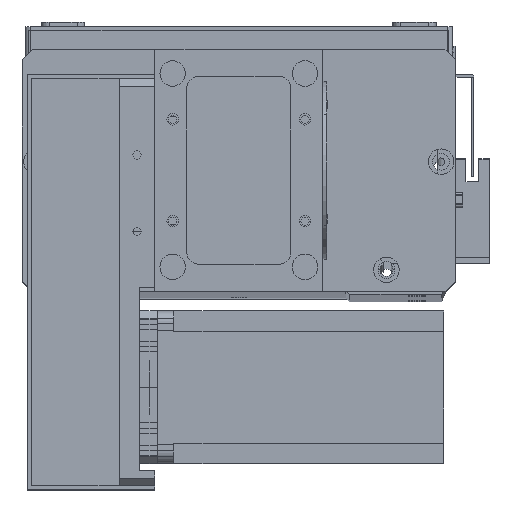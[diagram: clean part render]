
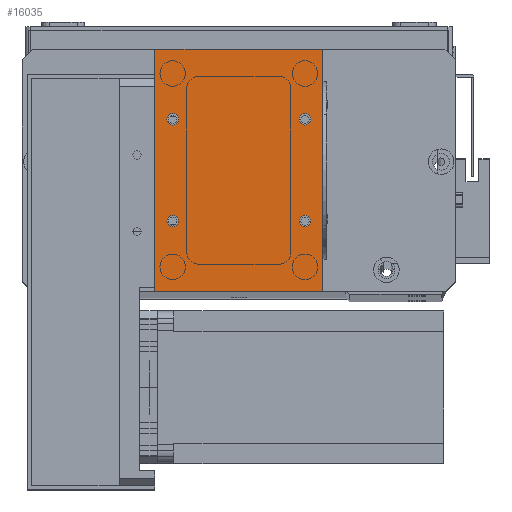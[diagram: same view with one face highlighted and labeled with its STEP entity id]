
A CAD part, top view. The second image highlights one B-rep face of the part: STEP entity #16035.
In plain terms, the highlighted planar face has unit normal (0, 0, 1).
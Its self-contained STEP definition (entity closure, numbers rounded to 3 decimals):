
#400 = CARTESIAN_POINT ( 'NONE',  ( 59., 67.5, 2. ) ) ;
#459 = DIRECTION ( 'NONE',  ( 0., 0., 1. ) ) ;
#932 = FACE_BOUND ( 'NONE', #26355, .T. ) ;
#1031 = CARTESIAN_POINT ( 'NONE',  ( 7., 67.5, 2. ) ) ;
#1072 = VERTEX_POINT ( 'NONE', #25396 ) ;
#1284 = VERTEX_POINT ( 'NONE', #9262 ) ;
#1504 = VECTOR ( 'NONE', #21744, 1000. ) ;
#1516 = EDGE_CURVE ( 'NONE', #30271, #21152, #19357, .T. ) ;
#2965 = DIRECTION ( 'NONE',  ( 1., 0., 0. ) ) ;
#3580 = DIRECTION ( 'NONE',  ( 1., 0., 0. ) ) ;
#3852 = CARTESIAN_POINT ( 'NONE',  ( 59., 27.5, 2. ) ) ;
#4043 = ORIENTED_EDGE ( 'NONE', *, *, #29175, .T. ) ;
#4107 = CARTESIAN_POINT ( 'NONE',  ( 4.75, 67.5, 2. ) ) ;
#4627 = EDGE_CURVE ( 'NONE', #31067, #5904, #30130, .T. ) ;
#4855 = AXIS2_PLACEMENT_3D ( 'NONE', #3852, #21448, #6353 ) ;
#5101 = VECTOR ( 'NONE', #30964, 1000. ) ;
#5251 = CARTESIAN_POINT ( 'NONE',  ( 66., 0., 2. ) ) ;
#5904 = VERTEX_POINT ( 'NONE', #4107 ) ;
#6353 = DIRECTION ( 'NONE',  ( 1., 0., 0. ) ) ;
#6355 = VERTEX_POINT ( 'NONE', #28781 ) ;
#6761 = VECTOR ( 'NONE', #14997, 1000. ) ;
#6828 = FACE_OUTER_BOUND ( 'NONE', #27751, .T. ) ;
#7028 = DIRECTION ( 'NONE',  ( -1., 0., 0. ) ) ;
#7612 = FACE_BOUND ( 'NONE', #17208, .T. ) ;
#7706 = CARTESIAN_POINT ( 'NONE',  ( 59., 27.5, 2. ) ) ;
#7829 = ORIENTED_EDGE ( 'NONE', *, *, #1516, .F. ) ;
#8973 = CARTESIAN_POINT ( 'NONE',  ( 66., 0., 2. ) ) ;
#9186 = FACE_BOUND ( 'NONE', #15087, .T. ) ;
#9262 = CARTESIAN_POINT ( 'NONE',  ( 0., 95., 2. ) ) ;
#9445 = PLANE ( 'NONE',  #20598 ) ;
#9720 = CARTESIAN_POINT ( 'NONE',  ( 7., 67.5, 2. ) ) ;
#9829 = EDGE_CURVE ( 'NONE', #1284, #15431, #26444, .T. ) ;
#10110 = CIRCLE ( 'NONE', #15803, 2.25 ) ;
#10234 = DIRECTION ( 'NONE',  ( 1., 0., 0. ) ) ;
#10751 = ORIENTED_EDGE ( 'NONE', *, *, #22055, .F. ) ;
#11448 = CARTESIAN_POINT ( 'NONE',  ( 56.75, 27.5, 2. ) ) ;
#11743 = CIRCLE ( 'NONE', #4855, 2.25 ) ;
#11950 = VERTEX_POINT ( 'NONE', #5251 ) ;
#12055 = ORIENTED_EDGE ( 'NONE', *, *, #14398, .F. ) ;
#12268 = DIRECTION ( 'NONE',  ( 1., 0., 0. ) ) ;
#12288 = DIRECTION ( 'NONE',  ( 0., 0., 1. ) ) ;
#13457 = EDGE_CURVE ( 'NONE', #21152, #30271, #11743, .T. ) ;
#13479 = CARTESIAN_POINT ( 'NONE',  ( 7., 27.5, 2. ) ) ;
#13769 = AXIS2_PLACEMENT_3D ( 'NONE', #15563, #459, #18109 ) ;
#14173 = EDGE_LOOP ( 'NONE', ( #20499, #12055 ) ) ;
#14217 = CARTESIAN_POINT ( 'NONE',  ( 61.25, 67.5, 2. ) ) ;
#14304 = CARTESIAN_POINT ( 'NONE',  ( 0., 0., 2. ) ) ;
#14398 = EDGE_CURVE ( 'NONE', #1072, #23546, #32612, .T. ) ;
#14853 = VERTEX_POINT ( 'NONE', #22756 ) ;
#14997 = DIRECTION ( 'NONE',  ( -1., 0., 0. ) ) ;
#15087 = EDGE_LOOP ( 'NONE', ( #23857, #10751 ) ) ;
#15431 = VERTEX_POINT ( 'NONE', #24833 ) ;
#15563 = CARTESIAN_POINT ( 'NONE',  ( 59., 67.5, 2. ) ) ;
#15803 = AXIS2_PLACEMENT_3D ( 'NONE', #400, #18057, #2965 ) ;
#16012 = DIRECTION ( 'NONE',  ( 1., 0., 0. ) ) ;
#16035 = ADVANCED_FACE ( 'NONE', ( #932, #20254, #7612, #9186, #6828 ), #9445, .F. ) ;
#16330 = EDGE_CURVE ( 'NONE', #6355, #14853, #18281, .T. ) ;
#16941 = ORIENTED_EDGE ( 'NONE', *, *, #27184, .T. ) ;
#17208 = EDGE_LOOP ( 'NONE', ( #7829, #24542 ) ) ;
#17564 = CARTESIAN_POINT ( 'NONE',  ( 0., 95., 2. ) ) ;
#17846 = CIRCLE ( 'NONE', #18262, 2.25 ) ;
#18057 = DIRECTION ( 'NONE',  ( 0., 0., 1. ) ) ;
#18109 = DIRECTION ( 'NONE',  ( 1., 0., 0. ) ) ;
#18262 = AXIS2_PLACEMENT_3D ( 'NONE', #13479, #31161, #16012 ) ;
#18281 = CIRCLE ( 'NONE', #30142, 2.25 ) ;
#18661 = DIRECTION ( 'NONE',  ( 0., 0., 1. ) ) ;
#19357 = CIRCLE ( 'NONE', #23220, 2.25 ) ;
#19404 = EDGE_CURVE ( 'NONE', #23546, #1072, #10110, .T. ) ;
#20254 = FACE_BOUND ( 'NONE', #14173, .T. ) ;
#20499 = ORIENTED_EDGE ( 'NONE', *, *, #19404, .F. ) ;
#20598 = AXIS2_PLACEMENT_3D ( 'NONE', #29651, #22121, #7028 ) ;
#20606 = ORIENTED_EDGE ( 'NONE', *, *, #9829, .T. ) ;
#21152 = VERTEX_POINT ( 'NONE', #11448 ) ;
#21448 = DIRECTION ( 'NONE',  ( 0., 0., 1. ) ) ;
#21592 = LINE ( 'NONE', #8973, #1504 ) ;
#21744 = DIRECTION ( 'NONE',  ( 0., 1., 0. ) ) ;
#22055 = EDGE_CURVE ( 'NONE', #14853, #6355, #17846, .T. ) ;
#22121 = DIRECTION ( 'NONE',  ( 0., 0., -1. ) ) ;
#22756 = CARTESIAN_POINT ( 'NONE',  ( 4.75, 27.5, 2. ) ) ;
#23220 = AXIS2_PLACEMENT_3D ( 'NONE', #7706, #25363, #10234 ) ;
#23267 = VECTOR ( 'NONE', #29458, 1000. ) ;
#23428 = CARTESIAN_POINT ( 'NONE',  ( 9.25, 67.5, 2. ) ) ;
#23546 = VERTEX_POINT ( 'NONE', #14217 ) ;
#23857 = ORIENTED_EDGE ( 'NONE', *, *, #16330, .F. ) ;
#24125 = AXIS2_PLACEMENT_3D ( 'NONE', #1031, #18661, #3580 ) ;
#24259 = ORIENTED_EDGE ( 'NONE', *, *, #29574, .F. ) ;
#24526 = AXIS2_PLACEMENT_3D ( 'NONE', #9720, #27373, #12268 ) ;
#24542 = ORIENTED_EDGE ( 'NONE', *, *, #13457, .F. ) ;
#24768 = EDGE_CURVE ( 'NONE', #11950, #27368, #21592, .T. ) ;
#24833 = CARTESIAN_POINT ( 'NONE',  ( 0., 0., 2. ) ) ;
#25363 = DIRECTION ( 'NONE',  ( 0., 0., 1. ) ) ;
#25396 = CARTESIAN_POINT ( 'NONE',  ( 56.75, 67.5, 2. ) ) ;
#25965 = CIRCLE ( 'NONE', #24526, 2.25 ) ;
#26355 = EDGE_LOOP ( 'NONE', ( #28946, #24259 ) ) ;
#26444 = LINE ( 'NONE', #14304, #23267 ) ;
#26884 = LINE ( 'NONE', #17564, #6761 ) ;
#27184 = EDGE_CURVE ( 'NONE', #27368, #1284, #26884, .T. ) ;
#27368 = VERTEX_POINT ( 'NONE', #28376 ) ;
#27373 = DIRECTION ( 'NONE',  ( 0., 0., 1. ) ) ;
#27396 = CARTESIAN_POINT ( 'NONE',  ( 7., 27.5, 2. ) ) ;
#27560 = CARTESIAN_POINT ( 'NONE',  ( 61.25, 27.5, 2. ) ) ;
#27751 = EDGE_LOOP ( 'NONE', ( #20606, #4043, #31072, #16941 ) ) ;
#28376 = CARTESIAN_POINT ( 'NONE',  ( 66., 95., 2. ) ) ;
#28413 = CARTESIAN_POINT ( 'NONE',  ( 0., 0., 2. ) ) ;
#28781 = CARTESIAN_POINT ( 'NONE',  ( 9.25, 27.5, 2. ) ) ;
#28946 = ORIENTED_EDGE ( 'NONE', *, *, #4627, .F. ) ;
#29175 = EDGE_CURVE ( 'NONE', #15431, #11950, #31920, .T. ) ;
#29458 = DIRECTION ( 'NONE',  ( 0., -1., 0. ) ) ;
#29574 = EDGE_CURVE ( 'NONE', #5904, #31067, #25965, .T. ) ;
#29651 = CARTESIAN_POINT ( 'NONE',  ( 0., 0., 2. ) ) ;
#29952 = DIRECTION ( 'NONE',  ( 1., 0., 0. ) ) ;
#30130 = CIRCLE ( 'NONE', #24125, 2.25 ) ;
#30142 = AXIS2_PLACEMENT_3D ( 'NONE', #27396, #12288, #29952 ) ;
#30271 = VERTEX_POINT ( 'NONE', #27560 ) ;
#30964 = DIRECTION ( 'NONE',  ( 1., 0., 0. ) ) ;
#31067 = VERTEX_POINT ( 'NONE', #23428 ) ;
#31072 = ORIENTED_EDGE ( 'NONE', *, *, #24768, .T. ) ;
#31161 = DIRECTION ( 'NONE',  ( 0., 0., 1. ) ) ;
#31920 = LINE ( 'NONE', #28413, #5101 ) ;
#32612 = CIRCLE ( 'NONE', #13769, 2.25 ) ;
